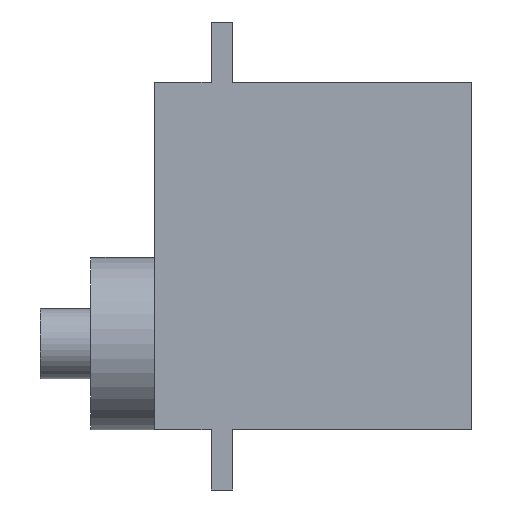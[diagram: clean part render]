
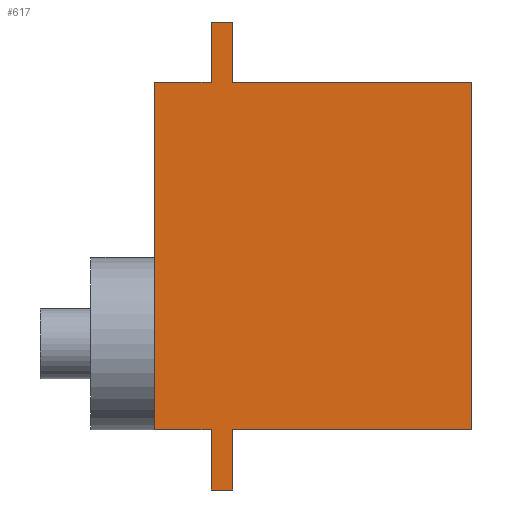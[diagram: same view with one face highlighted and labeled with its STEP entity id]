
A CAD part, left-side view. The second image highlights one B-rep face of the part: STEP entity #617.
In plain terms, the highlighted planar face has unit normal (-1, 0, 0).
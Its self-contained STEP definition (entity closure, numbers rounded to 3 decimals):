
#34 = VECTOR ( 'NONE', #132, 1000. ) ;
#35 = ORIENTED_EDGE ( 'NONE', *, *, #514, .F. ) ;
#45 = CARTESIAN_POINT ( 'NONE',  ( -5.95, 16.5, 16.15 ) ) ;
#56 = CARTESIAN_POINT ( 'NONE',  ( -5.95, 21.9, 12. ) ) ;
#63 = VECTOR ( 'NONE', #166, 1000. ) ;
#67 = VERTEX_POINT ( 'NONE', #659 ) ;
#85 = CARTESIAN_POINT ( 'NONE',  ( -5.95, 18., 16.15 ) ) ;
#107 = LINE ( 'NONE', #599, #375 ) ;
#108 = CARTESIAN_POINT ( 'NONE',  ( -5.95, 0., -12. ) ) ;
#109 = CARTESIAN_POINT ( 'NONE',  ( -5.95, 16.5, -16.15 ) ) ;
#117 = EDGE_CURVE ( 'NONE', #797, #177, #555, .T. ) ;
#120 = CARTESIAN_POINT ( 'NONE',  ( -5.95, 0., 12. ) ) ;
#123 = VECTOR ( 'NONE', #273, 1000. ) ;
#128 = CARTESIAN_POINT ( 'NONE',  ( -5.95, 21.9, 12. ) ) ;
#129 = DIRECTION ( 'NONE',  ( 0., -1., 0. ) ) ;
#132 = DIRECTION ( 'NONE',  ( 0., 0., 1. ) ) ;
#133 = CARTESIAN_POINT ( 'NONE',  ( -5.95, 16.5, -12. ) ) ;
#145 = EDGE_CURVE ( 'NONE', #770, #425, #929, .T. ) ;
#165 = ORIENTED_EDGE ( 'NONE', *, *, #922, .F. ) ;
#166 = DIRECTION ( 'NONE',  ( 0., 0., 1. ) ) ;
#177 = VERTEX_POINT ( 'NONE', #278 ) ;
#185 = EDGE_CURVE ( 'NONE', #721, #394, #914, .T. ) ;
#204 = DIRECTION ( 'NONE',  ( 0., 0., 1. ) ) ;
#212 = VERTEX_POINT ( 'NONE', #109 ) ;
#231 = VECTOR ( 'NONE', #129, 1000. ) ;
#233 = CARTESIAN_POINT ( 'NONE',  ( -5.95, 16.5, 12. ) ) ;
#241 = DIRECTION ( 'NONE',  ( 0., -1., 0. ) ) ;
#260 = ORIENTED_EDGE ( 'NONE', *, *, #185, .T. ) ;
#263 = DIRECTION ( 'NONE',  ( 0., 0., -1. ) ) ;
#273 = DIRECTION ( 'NONE',  ( 0., 0., 1. ) ) ;
#277 = DIRECTION ( 'NONE',  ( 1., 0., 0. ) ) ;
#278 = CARTESIAN_POINT ( 'NONE',  ( -5.95, 18., -12. ) ) ;
#282 = VERTEX_POINT ( 'NONE', #729 ) ;
#285 = ORIENTED_EDGE ( 'NONE', *, *, #474, .T. ) ;
#290 = ORIENTED_EDGE ( 'NONE', *, *, #513, .F. ) ;
#310 = DIRECTION ( 'NONE',  ( 0., -1., 0. ) ) ;
#314 = LINE ( 'NONE', #393, #63 ) ;
#337 = VERTEX_POINT ( 'NONE', #85 ) ;
#339 = CARTESIAN_POINT ( 'NONE',  ( -5.95, 21.9, -12. ) ) ;
#357 = VECTOR ( 'NONE', #844, 1000. ) ;
#371 = EDGE_CURVE ( 'NONE', #425, #944, #314, .T. ) ;
#375 = VECTOR ( 'NONE', #241, 1000. ) ;
#393 = CARTESIAN_POINT ( 'NONE',  ( -5.95, 0., -12. ) ) ;
#394 = VERTEX_POINT ( 'NONE', #45 ) ;
#395 = LINE ( 'NONE', #778, #231 ) ;
#407 = LINE ( 'NONE', #339, #34 ) ;
#418 = CARTESIAN_POINT ( 'NONE',  ( -5.95, 18., -16.15 ) ) ;
#425 = VERTEX_POINT ( 'NONE', #108 ) ;
#436 = ORIENTED_EDGE ( 'NONE', *, *, #533, .F. ) ;
#437 = ORIENTED_EDGE ( 'NONE', *, *, #561, .F. ) ;
#463 = DIRECTION ( 'NONE',  ( 0., -1., 0. ) ) ;
#474 = EDGE_CURVE ( 'NONE', #797, #212, #678, .T. ) ;
#475 = ORIENTED_EDGE ( 'NONE', *, *, #145, .T. ) ;
#513 = EDGE_CURVE ( 'NONE', #337, #394, #395, .T. ) ;
#514 = EDGE_CURVE ( 'NONE', #282, #939, #407, .T. ) ;
#528 = VECTOR ( 'NONE', #924, 1000. ) ;
#533 = EDGE_CURVE ( 'NONE', #763, #282, #698, .T. ) ;
#540 = CARTESIAN_POINT ( 'NONE',  ( -5.95, 21.9, -12. ) ) ;
#555 = LINE ( 'NONE', #418, #576 ) ;
#558 = VECTOR ( 'NONE', #204, 1000. ) ;
#561 = EDGE_CURVE ( 'NONE', #67, #337, #632, .T. ) ;
#567 = ORIENTED_EDGE ( 'NONE', *, *, #795, .F. ) ;
#576 = VECTOR ( 'NONE', #710, 1000. ) ;
#599 = CARTESIAN_POINT ( 'NONE',  ( -5.95, 21.9, -12. ) ) ;
#604 = AXIS2_PLACEMENT_3D ( 'NONE', #713, #277, #263 ) ;
#617 = ADVANCED_FACE ( 'NONE', ( #920 ), #628, .F. ) ;
#628 = PLANE ( 'NONE',  #604 ) ;
#632 = LINE ( 'NONE', #845, #123 ) ;
#641 = EDGE_LOOP ( 'NONE', ( #645, #567, #260, #290, #437, #165, #35, #436, #898, #740, #285, #895, #475 ) ) ;
#645 = ORIENTED_EDGE ( 'NONE', *, *, #371, .T. ) ;
#651 = VECTOR ( 'NONE', #463, 1000. ) ;
#659 = CARTESIAN_POINT ( 'NONE',  ( -5.95, 18., 12. ) ) ;
#672 = CARTESIAN_POINT ( 'NONE',  ( -5.95, 16.5, 12. ) ) ;
#678 = LINE ( 'NONE', #913, #773 ) ;
#693 = CARTESIAN_POINT ( 'NONE',  ( -5.95, 16.5, -16.15 ) ) ;
#698 = LINE ( 'NONE', #705, #558 ) ;
#699 = VECTOR ( 'NONE', #706, 1000. ) ;
#705 = CARTESIAN_POINT ( 'NONE',  ( -5.95, 21.9, -12. ) ) ;
#706 = DIRECTION ( 'NONE',  ( 0., 0., 1. ) ) ;
#710 = DIRECTION ( 'NONE',  ( 0., 0., 1. ) ) ;
#713 = CARTESIAN_POINT ( 'NONE',  ( -5.95, 16.5, -12. ) ) ;
#721 = VERTEX_POINT ( 'NONE', #233 ) ;
#729 = CARTESIAN_POINT ( 'NONE',  ( -5.95, 21.9, -6.05 ) ) ;
#740 = ORIENTED_EDGE ( 'NONE', *, *, #117, .F. ) ;
#753 = CARTESIAN_POINT ( 'NONE',  ( -5.95, 16.5, -12. ) ) ;
#755 = DIRECTION ( 'NONE',  ( 0., -1., 0. ) ) ;
#763 = VERTEX_POINT ( 'NONE', #540 ) ;
#770 = VERTEX_POINT ( 'NONE', #753 ) ;
#773 = VECTOR ( 'NONE', #310, 1000. ) ;
#778 = CARTESIAN_POINT ( 'NONE',  ( -5.95, 18., 16.15 ) ) ;
#795 = EDGE_CURVE ( 'NONE', #721, #944, #900, .T. ) ;
#797 = VERTEX_POINT ( 'NONE', #916 ) ;
#817 = EDGE_CURVE ( 'NONE', #763, #177, #107, .T. ) ;
#832 = CARTESIAN_POINT ( 'NONE',  ( -5.95, 16.5, -16.15 ) ) ;
#844 = DIRECTION ( 'NONE',  ( 0., -1., 0. ) ) ;
#845 = CARTESIAN_POINT ( 'NONE',  ( -5.95, 18., -16.15 ) ) ;
#848 = LINE ( 'NONE', #56, #357 ) ;
#873 = VECTOR ( 'NONE', #755, 1000. ) ;
#893 = EDGE_CURVE ( 'NONE', #212, #770, #919, .T. ) ;
#895 = ORIENTED_EDGE ( 'NONE', *, *, #893, .T. ) ;
#898 = ORIENTED_EDGE ( 'NONE', *, *, #817, .T. ) ;
#900 = LINE ( 'NONE', #672, #651 ) ;
#913 = CARTESIAN_POINT ( 'NONE',  ( -5.95, 18., -16.15 ) ) ;
#914 = LINE ( 'NONE', #832, #699 ) ;
#916 = CARTESIAN_POINT ( 'NONE',  ( -5.95, 18., -16.15 ) ) ;
#919 = LINE ( 'NONE', #693, #528 ) ;
#920 = FACE_OUTER_BOUND ( 'NONE', #641, .T. ) ;
#922 = EDGE_CURVE ( 'NONE', #939, #67, #848, .T. ) ;
#924 = DIRECTION ( 'NONE',  ( 0., 0., 1. ) ) ;
#929 = LINE ( 'NONE', #133, #873 ) ;
#939 = VERTEX_POINT ( 'NONE', #128 ) ;
#944 = VERTEX_POINT ( 'NONE', #120 ) ;
